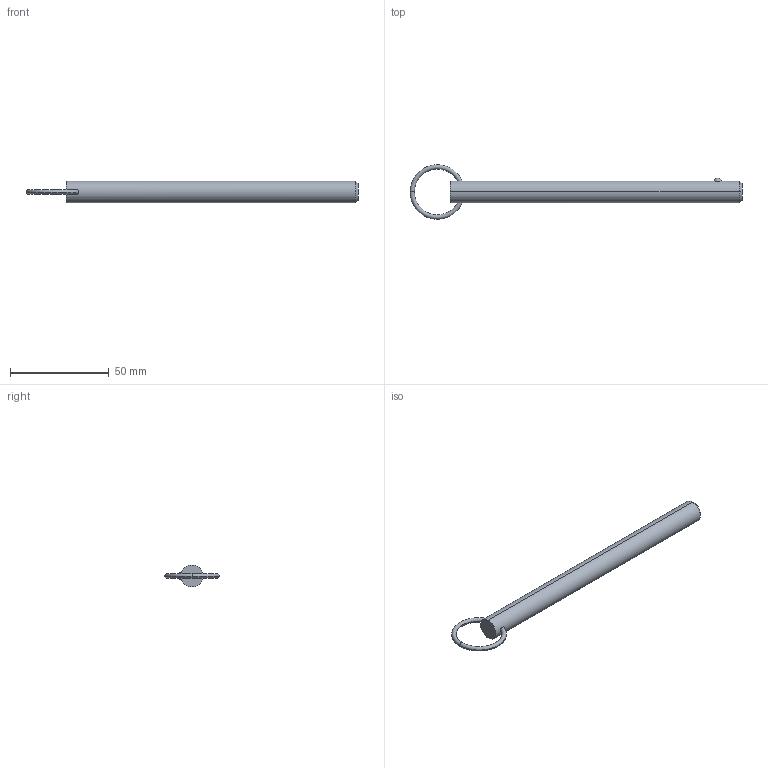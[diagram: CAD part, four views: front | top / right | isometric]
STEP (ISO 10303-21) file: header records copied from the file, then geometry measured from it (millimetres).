
FILE_DESCRIPTION (( 'STEP AP203' ), '1' );
FILE_NAME ('33012.W4350.step', '2024-11-01T14:12:08', ( '' ), ( '' ), 'SwSTEP 2.0', 'SolidWorks 2019', '' );
FILE_SCHEMA (( 'CONFIG_CONTROL_DESIGN' ));
Length unit declared in the file: millimetre
Products named in the file (3): Part2_33012.W4350; 33012.W4350; Part1_33012.W4350
Assembly tree (2 placements, depth 2):
  33012.W4350
    Part1_33012.W4350
    Part2_33012.W4350
Bounding box: 168.03 x 27.62 x 11.11 mm (x, y, z)
Volume: 14532.2 mm3; surface area: 5966.2 mm2
Topology: 2 solids, 2 shells, 16 faces, 31 edges, 18 vertices
Faces by surface type: torus 8, sphere 2, cone 2, cylinder 2, plane 2
Entity records: 863 total; most frequent: CARTESIAN_POINT 220, DIRECTION 88, ORIENTED_EDGE 62, AXIS2_PLACEMENT_3D 42, EDGE_CURVE 31, PERSON_AND_ORGANIZATION 26, CIRCLE 21, EDGE_LOOP 19
